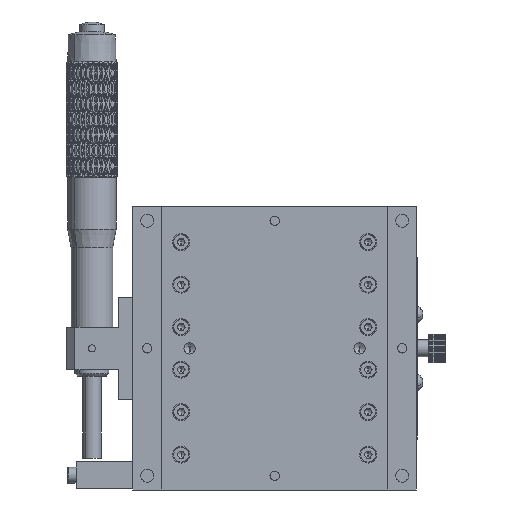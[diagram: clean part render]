
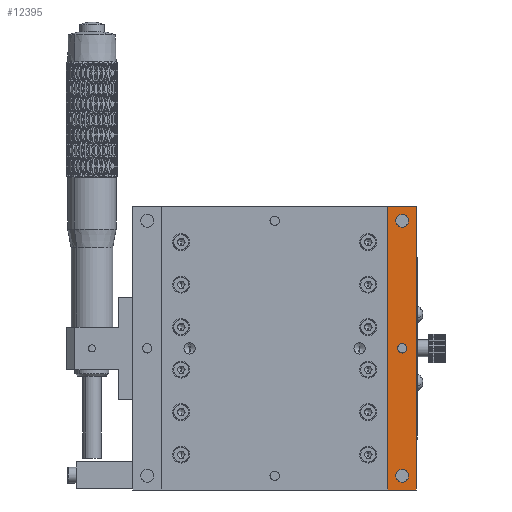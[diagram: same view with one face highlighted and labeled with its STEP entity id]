
A CAD part, front view. The second image highlights one B-rep face of the part: STEP entity #12395.
In plain terms, the highlighted planar face has unit normal (0, -1, 0).
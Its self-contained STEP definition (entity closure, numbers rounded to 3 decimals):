
#374 = CARTESIAN_POINT ( 'NONE',  ( 45., 0., 0. ) ) ;
#2739 = LINE ( 'NONE', #43688, #61704 ) ;
#2837 = AXIS2_PLACEMENT_3D ( 'NONE', #39676, #89414, #46852 ) ;
#3404 = AXIS2_PLACEMENT_3D ( 'NONE', #374, #50074, #7501 ) ;
#3787 = CARTESIAN_POINT ( 'NONE',  ( 45., 0., -47.25 ) ) ;
#5003 = ORIENTED_EDGE ( 'NONE', *, *, #39078, .F. ) ;
#6177 = CARTESIAN_POINT ( 'NONE',  ( 50., 0., 50. ) ) ;
#6498 = AXIS2_PLACEMENT_3D ( 'NONE', #19314, #69070, #26433 ) ;
#6565 = CARTESIAN_POINT ( 'NONE',  ( 50., 0., 50. ) ) ;
#7501 = DIRECTION ( 'NONE',  ( 0., 0., 1. ) ) ;
#9439 = DIRECTION ( 'NONE',  ( 0., 1., 0. ) ) ;
#11021 = ORIENTED_EDGE ( 'NONE', *, *, #69544, .T. ) ;
#11467 = DIRECTION ( 'NONE',  ( 0., 0., 1. ) ) ;
#12395 = ADVANCED_FACE ( 'NONE', ( #15379, #88688, #34231, #32028 ), #44802, .F. ) ;
#14416 = EDGE_LOOP ( 'NONE', ( #41319, #67129 ) ) ;
#15379 = FACE_BOUND ( 'NONE', #87364, .T. ) ;
#15967 = VECTOR ( 'NONE', #11467, 1000. ) ;
#16417 = EDGE_CURVE ( 'NONE', #59128, #71530, #54078, .T. ) ;
#17579 = CARTESIAN_POINT ( 'NONE',  ( -50., 0., -50. ) ) ;
#17921 = DIRECTION ( 'NONE',  ( 0., 1., 0. ) ) ;
#18596 = CARTESIAN_POINT ( 'NONE',  ( 40., 0., 50. ) ) ;
#19314 = CARTESIAN_POINT ( 'NONE',  ( 45., 0., 0. ) ) ;
#19427 = EDGE_CURVE ( 'NONE', #85420, #91034, #72654, .T. ) ;
#21213 = CARTESIAN_POINT ( 'NONE',  ( 45., 0., -45. ) ) ;
#21602 = ORIENTED_EDGE ( 'NONE', *, *, #39718, .T. ) ;
#22030 = AXIS2_PLACEMENT_3D ( 'NONE', #60512, #17921, #67657 ) ;
#23535 = CARTESIAN_POINT ( 'NONE',  ( 45., 0., 45. ) ) ;
#26433 = DIRECTION ( 'NONE',  ( 0., 0., 1. ) ) ;
#28330 = DIRECTION ( 'NONE',  ( 0., 0., 1. ) ) ;
#29709 = VERTEX_POINT ( 'NONE', #58053 ) ;
#30697 = DIRECTION ( 'NONE',  ( 0., 0., 1. ) ) ;
#32028 = FACE_OUTER_BOUND ( 'NONE', #41273, .T. ) ;
#32211 = CIRCLE ( 'NONE', #36824, 2.25 ) ;
#32371 = ORIENTED_EDGE ( 'NONE', *, *, #54386, .F. ) ;
#34231 = FACE_BOUND ( 'NONE', #14416, .T. ) ;
#35259 = VERTEX_POINT ( 'NONE', #63307 ) ;
#36824 = AXIS2_PLACEMENT_3D ( 'NONE', #21213, #70969, #28330 ) ;
#37090 = VECTOR ( 'NONE', #77757, 1000. ) ;
#37530 = AXIS2_PLACEMENT_3D ( 'NONE', #51997, #9439, #59177 ) ;
#38400 = ORIENTED_EDGE ( 'NONE', *, *, #19427, .F. ) ;
#39078 = EDGE_CURVE ( 'NONE', #91034, #61320, #2739, .T. ) ;
#39235 = EDGE_CURVE ( 'NONE', #85420, #61344, #67221, .T. ) ;
#39676 = CARTESIAN_POINT ( 'NONE',  ( 45., 0., 45. ) ) ;
#39718 = EDGE_CURVE ( 'NONE', #35259, #68352, #82704, .T. ) ;
#40953 = EDGE_CURVE ( 'NONE', #68352, #35259, #43636, .T. ) ;
#41273 = EDGE_LOOP ( 'NONE', ( #5003, #38400, #41853, #32371 ) ) ;
#41319 = ORIENTED_EDGE ( 'NONE', *, *, #47830, .T. ) ;
#41853 = ORIENTED_EDGE ( 'NONE', *, *, #39235, .T. ) ;
#43636 = CIRCLE ( 'NONE', #68460, 2.25 ) ;
#43688 = CARTESIAN_POINT ( 'NONE',  ( -50., 0., 50. ) ) ;
#44802 = PLANE ( 'NONE',  #37530 ) ;
#46103 = DIRECTION ( 'NONE',  ( 1., 0., 0. ) ) ;
#46852 = DIRECTION ( 'NONE',  ( 0., 0., 1. ) ) ;
#47066 = CARTESIAN_POINT ( 'NONE',  ( 40., 0., -50. ) ) ;
#47278 = EDGE_CURVE ( 'NONE', #88693, #29709, #32211, .T. ) ;
#47830 = EDGE_CURVE ( 'NONE', #29709, #88693, #82338, .T. ) ;
#50074 = DIRECTION ( 'NONE',  ( 0., 1., 0. ) ) ;
#50254 = CIRCLE ( 'NONE', #3404, 1.65 ) ;
#50302 = CARTESIAN_POINT ( 'NONE',  ( 50., 0., -50. ) ) ;
#51997 = CARTESIAN_POINT ( 'NONE',  ( -50., 0., 50. ) ) ;
#54078 = CIRCLE ( 'NONE', #6498, 1.65 ) ;
#54386 = EDGE_CURVE ( 'NONE', #61320, #61344, #74941, .T. ) ;
#55794 = EDGE_LOOP ( 'NONE', ( #86422, #21602 ) ) ;
#57438 = CARTESIAN_POINT ( 'NONE',  ( 45., 0., 1.65 ) ) ;
#58053 = CARTESIAN_POINT ( 'NONE',  ( 45., 0., -42.75 ) ) ;
#59128 = VERTEX_POINT ( 'NONE', #57438 ) ;
#59177 = DIRECTION ( 'NONE',  ( -1., 0., 0. ) ) ;
#60512 = CARTESIAN_POINT ( 'NONE',  ( 45., 0., -45. ) ) ;
#61320 = VERTEX_POINT ( 'NONE', #6177 ) ;
#61344 = VERTEX_POINT ( 'NONE', #50302 ) ;
#61704 = VECTOR ( 'NONE', #64870, 1000. ) ;
#61794 = CARTESIAN_POINT ( 'NONE',  ( 45., 0., -1.65 ) ) ;
#62794 = ORIENTED_EDGE ( 'NONE', *, *, #16417, .T. ) ;
#63307 = CARTESIAN_POINT ( 'NONE',  ( 45., 0., 42.75 ) ) ;
#64870 = DIRECTION ( 'NONE',  ( 1., 0., 0. ) ) ;
#67129 = ORIENTED_EDGE ( 'NONE', *, *, #47278, .T. ) ;
#67221 = LINE ( 'NONE', #17579, #86113 ) ;
#67435 = CARTESIAN_POINT ( 'NONE',  ( 45., 0., 47.25 ) ) ;
#67657 = DIRECTION ( 'NONE',  ( 0., 0., 1. ) ) ;
#68352 = VERTEX_POINT ( 'NONE', #67435 ) ;
#68460 = AXIS2_PLACEMENT_3D ( 'NONE', #23535, #73282, #30697 ) ;
#69070 = DIRECTION ( 'NONE',  ( 0., 1., 0. ) ) ;
#69544 = EDGE_CURVE ( 'NONE', #71530, #59128, #50254, .T. ) ;
#70969 = DIRECTION ( 'NONE',  ( 0., 1., 0. ) ) ;
#71530 = VERTEX_POINT ( 'NONE', #61794 ) ;
#72654 = LINE ( 'NONE', #18596, #15967 ) ;
#73282 = DIRECTION ( 'NONE',  ( 0., 1., 0. ) ) ;
#74941 = LINE ( 'NONE', #6565, #37090 ) ;
#77757 = DIRECTION ( 'NONE',  ( 0., 0., -1. ) ) ;
#82338 = CIRCLE ( 'NONE', #22030, 2.25 ) ;
#82704 = CIRCLE ( 'NONE', #2837, 2.25 ) ;
#85420 = VERTEX_POINT ( 'NONE', #47066 ) ;
#86113 = VECTOR ( 'NONE', #46103, 1000. ) ;
#86422 = ORIENTED_EDGE ( 'NONE', *, *, #40953, .T. ) ;
#86949 = CARTESIAN_POINT ( 'NONE',  ( 40., 0., 50. ) ) ;
#87364 = EDGE_LOOP ( 'NONE', ( #62794, #11021 ) ) ;
#88688 = FACE_BOUND ( 'NONE', #55794, .T. ) ;
#88693 = VERTEX_POINT ( 'NONE', #3787 ) ;
#89414 = DIRECTION ( 'NONE',  ( 0., 1., 0. ) ) ;
#91034 = VERTEX_POINT ( 'NONE', #86949 ) ;
